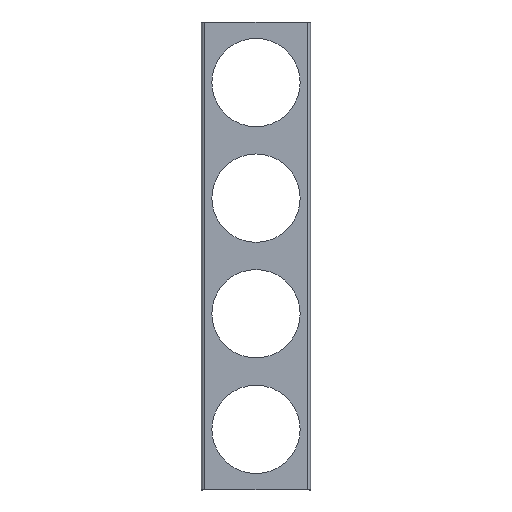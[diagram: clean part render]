
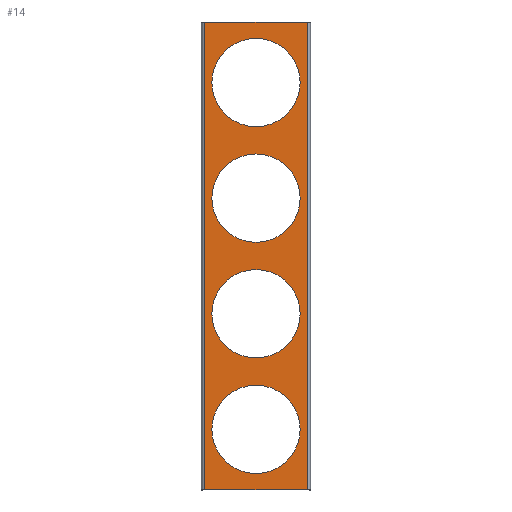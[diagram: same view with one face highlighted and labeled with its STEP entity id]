
A CAD part, top view. The second image highlights one B-rep face of the part: STEP entity #14.
In plain terms, the highlighted planar face has unit normal (0, 0, 1).
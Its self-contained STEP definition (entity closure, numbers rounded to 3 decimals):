
#14 = ADVANCED_FACE ( 'NONE', ( #643, #640, #638, #636, #644 ), #232, .T. ) ;
#38 = DIRECTION ( 'NONE',  ( -1., 0., 0. ) ) ;
#42 = DIRECTION ( 'NONE',  ( 0., 0., -1. ) ) ;
#43 = DIRECTION ( 'NONE',  ( 1., 0., 0. ) ) ;
#77 = CARTESIAN_POINT ( 'NONE',  ( 0., 55.5, 40. ) ) ;
#106 = DIRECTION ( 'NONE',  ( 0., 0., -1. ) ) ;
#111 = CARTESIAN_POINT ( 'NONE',  ( 0., 267.5, 40. ) ) ;
#112 = DIRECTION ( 'NONE',  ( 1., 0., 0. ) ) ;
#113 = DIRECTION ( 'NONE',  ( 0., 0., -1. ) ) ;
#123 = DIRECTION ( 'NONE',  ( 0., 0., -1. ) ) ;
#124 = DIRECTION ( 'NONE',  ( 1., 0., 0. ) ) ;
#125 = DIRECTION ( 'NONE',  ( 1., 0., 0. ) ) ;
#126 = CARTESIAN_POINT ( 'NONE',  ( -2., 429., 40. ) ) ;
#127 = DIRECTION ( 'NONE',  ( 1., 0., 0. ) ) ;
#128 = CARTESIAN_POINT ( 'NONE',  ( 0., 373.5, 40. ) ) ;
#144 = CARTESIAN_POINT ( 'NONE',  ( -47., 429., 40. ) ) ;
#145 = CARTESIAN_POINT ( 'NONE',  ( 40.5, 267.5, 40. ) ) ;
#161 = DIRECTION ( 'NONE',  ( 0., 0., -1. ) ) ;
#165 = DIRECTION ( 'NONE',  ( 1., 0., 0. ) ) ;
#169 = CARTESIAN_POINT ( 'NONE',  ( -4., 239.5, 40. ) ) ;
#173 = CARTESIAN_POINT ( 'NONE',  ( 47., 0., 40. ) ) ;
#175 = DIRECTION ( 'NONE',  ( 0., 0., 1. ) ) ;
#181 = CARTESIAN_POINT ( 'NONE',  ( -40.5, 267.5, 40. ) ) ;
#187 = DIRECTION ( 'NONE',  ( 0., -1., 0. ) ) ;
#188 = CARTESIAN_POINT ( 'NONE',  ( 40.5, 161.5, 40. ) ) ;
#192 = CARTESIAN_POINT ( 'NONE',  ( -40.5, 161.5, 40. ) ) ;
#196 = CARTESIAN_POINT ( 'NONE',  ( -55., 0., 40. ) ) ;
#199 = CARTESIAN_POINT ( 'NONE',  ( 40.5, 373.5, 40. ) ) ;
#206 = CARTESIAN_POINT ( 'NONE',  ( -47., 0., 40. ) ) ;
#207 = CARTESIAN_POINT ( 'NONE',  ( 0., 161.5, 40. ) ) ;
#208 = CARTESIAN_POINT ( 'NONE',  ( -40.5, 55.5, 40. ) ) ;
#209 = CARTESIAN_POINT ( 'NONE',  ( 47., 429., 40. ) ) ;
#219 = CARTESIAN_POINT ( 'NONE',  ( 40.5, 55.5, 40. ) ) ;
#224 = CARTESIAN_POINT ( 'NONE',  ( -40.5, 373.5, 40. ) ) ;
#232 = PLANE ( 'NONE',  #383 ) ;
#248 = CARTESIAN_POINT ( 'NONE',  ( 0., 267.5, 40. ) ) ;
#249 = VERTEX_POINT ( 'NONE', #199 ) ;
#279 = VERTEX_POINT ( 'NONE', #181 ) ;
#281 = VERTEX_POINT ( 'NONE', #145 ) ;
#284 = VERTEX_POINT ( 'NONE', #206 ) ;
#287 = VERTEX_POINT ( 'NONE', #209 ) ;
#290 = VERTEX_POINT ( 'NONE', #192 ) ;
#297 = VERTEX_POINT ( 'NONE', #173 ) ;
#299 = VERTEX_POINT ( 'NONE', #188 ) ;
#302 = VERTEX_POINT ( 'NONE', #208 ) ;
#306 = VERTEX_POINT ( 'NONE', #144 ) ;
#316 = VERTEX_POINT ( 'NONE', #219 ) ;
#317 = VERTEX_POINT ( 'NONE', #224 ) ;
#321 = CARTESIAN_POINT ( 'NONE',  ( 0., 55.5, 40. ) ) ;
#322 = CARTESIAN_POINT ( 'NONE',  ( -47., 479., 40. ) ) ;
#323 = DIRECTION ( 'NONE',  ( 0., 1., 0. ) ) ;
#324 = DIRECTION ( 'NONE',  ( 0., 0., -1. ) ) ;
#325 = DIRECTION ( 'NONE',  ( 1., 0., 0. ) ) ;
#326 = CARTESIAN_POINT ( 'NONE',  ( 0., 373.5, 40. ) ) ;
#327 = CARTESIAN_POINT ( 'NONE',  ( 47., 479., 40. ) ) ;
#328 = DIRECTION ( 'NONE',  ( 0., 1., 0. ) ) ;
#337 = DIRECTION ( 'NONE',  ( 0., 0., -1. ) ) ;
#338 = DIRECTION ( 'NONE',  ( 1., 0., 0. ) ) ;
#343 = CARTESIAN_POINT ( 'NONE',  ( 0., 161.5, 40. ) ) ;
#344 = DIRECTION ( 'NONE',  ( 1., 0., 0. ) ) ;
#345 = DIRECTION ( 'NONE',  ( 0., 0., -1. ) ) ;
#354 = AXIS2_PLACEMENT_3D ( 'NONE', #326, #337, #338 ) ;
#357 = AXIS2_PLACEMENT_3D ( 'NONE', #248, #42, #43 ) ;
#359 = AXIS2_PLACEMENT_3D ( 'NONE', #128, #113, #127 ) ;
#360 = AXIS2_PLACEMENT_3D ( 'NONE', #207, #161, #165 ) ;
#361 = AXIS2_PLACEMENT_3D ( 'NONE', #111, #106, #112 ) ;
#374 = AXIS2_PLACEMENT_3D ( 'NONE', #321, #345, #344 ) ;
#378 = AXIS2_PLACEMENT_3D ( 'NONE', #343, #324, #325 ) ;
#383 = AXIS2_PLACEMENT_3D ( 'NONE', #169, #175, #187 ) ;
#410 = EDGE_CURVE ( 'NONE', #290, #299, #600, .T. ) ;
#415 = EDGE_CURVE ( 'NONE', #297, #284, #614, .T. ) ;
#424 = EDGE_CURVE ( 'NONE', #306, #287, #581, .T. ) ;
#427 = EDGE_CURVE ( 'NONE', #302, #316, #574, .T. ) ;
#428 = EDGE_CURVE ( 'NONE', #279, #281, #572, .T. ) ;
#430 = EDGE_CURVE ( 'NONE', #317, #249, #569, .T. ) ;
#434 = EDGE_CURVE ( 'NONE', #281, #279, #559, .T. ) ;
#445 = EDGE_CURVE ( 'NONE', #316, #302, #538, .T. ) ;
#446 = EDGE_CURVE ( 'NONE', #284, #306, #543, .T. ) ;
#447 = AXIS2_PLACEMENT_3D ( 'NONE', #77, #123, #124 ) ;
#448 = EDGE_CURVE ( 'NONE', #299, #290, #537, .T. ) ;
#449 = EDGE_CURVE ( 'NONE', #297, #287, #546, .T. ) ;
#451 = EDGE_CURVE ( 'NONE', #249, #317, #531, .T. ) ;
#471 = ORIENTED_EDGE ( 'NONE', *, *, #428, .T. ) ;
#478 = EDGE_LOOP ( 'NONE', ( #729, #678, #727, #712 ) ) ;
#482 = EDGE_LOOP ( 'NONE', ( #676, #541 ) ) ;
#493 = EDGE_LOOP ( 'NONE', ( #718, #722 ) ) ;
#498 = EDGE_LOOP ( 'NONE', ( #619, #747 ) ) ;
#500 = EDGE_LOOP ( 'NONE', ( #734, #471 ) ) ;
#531 = CIRCLE ( 'NONE', #354, 40.5 ) ;
#537 = CIRCLE ( 'NONE', #378, 40.5 ) ;
#538 = CIRCLE ( 'NONE', #374, 40.5 ) ;
#539 = VECTOR ( 'NONE', #328, 1000. ) ;
#541 = ORIENTED_EDGE ( 'NONE', *, *, #410, .T. ) ;
#542 = VECTOR ( 'NONE', #323, 1000. ) ;
#543 = LINE ( 'NONE', #322, #542 ) ;
#546 = LINE ( 'NONE', #327, #539 ) ;
#559 = CIRCLE ( 'NONE', #357, 40.5 ) ;
#569 = CIRCLE ( 'NONE', #359, 40.5 ) ;
#572 = CIRCLE ( 'NONE', #361, 40.5 ) ;
#574 = CIRCLE ( 'NONE', #447, 40.5 ) ;
#580 = VECTOR ( 'NONE', #125, 1000. ) ;
#581 = LINE ( 'NONE', #126, #580 ) ;
#595 = VECTOR ( 'NONE', #38, 1000. ) ;
#600 = CIRCLE ( 'NONE', #360, 40.5 ) ;
#614 = LINE ( 'NONE', #196, #595 ) ;
#619 = ORIENTED_EDGE ( 'NONE', *, *, #451, .T. ) ;
#636 = FACE_BOUND ( 'NONE', #493, .T. ) ;
#638 = FACE_BOUND ( 'NONE', #500, .T. ) ;
#640 = FACE_BOUND ( 'NONE', #498, .T. ) ;
#643 = FACE_BOUND ( 'NONE', #482, .T. ) ;
#644 = FACE_OUTER_BOUND ( 'NONE', #478, .T. ) ;
#676 = ORIENTED_EDGE ( 'NONE', *, *, #448, .T. ) ;
#678 = ORIENTED_EDGE ( 'NONE', *, *, #446, .F. ) ;
#712 = ORIENTED_EDGE ( 'NONE', *, *, #449, .T. ) ;
#718 = ORIENTED_EDGE ( 'NONE', *, *, #445, .T. ) ;
#722 = ORIENTED_EDGE ( 'NONE', *, *, #427, .T. ) ;
#727 = ORIENTED_EDGE ( 'NONE', *, *, #415, .F. ) ;
#729 = ORIENTED_EDGE ( 'NONE', *, *, #424, .F. ) ;
#734 = ORIENTED_EDGE ( 'NONE', *, *, #434, .T. ) ;
#747 = ORIENTED_EDGE ( 'NONE', *, *, #430, .T. ) ;
